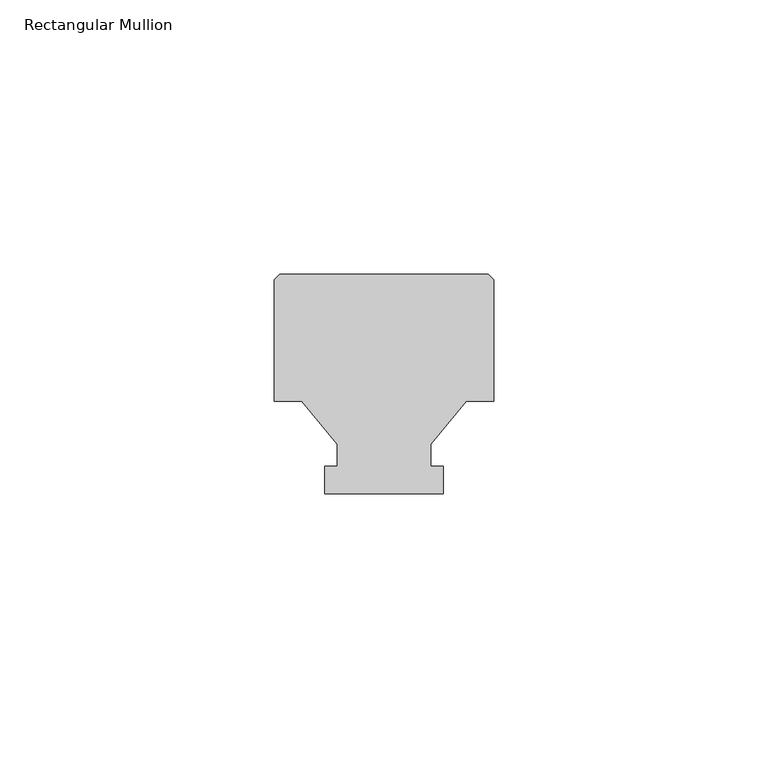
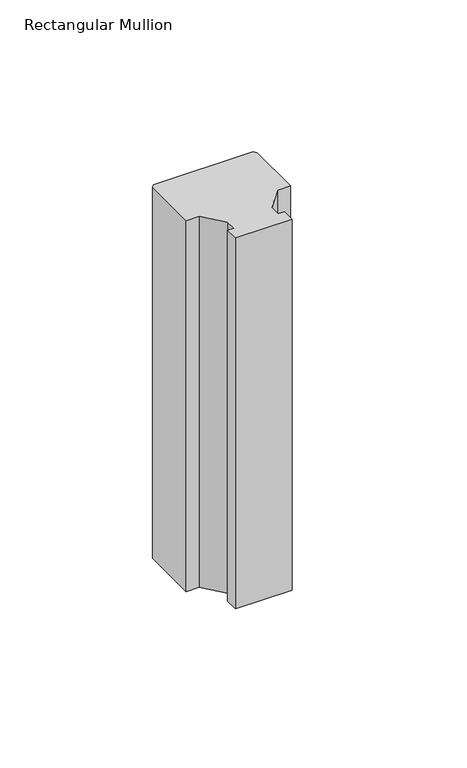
"""IFC4 building model written with IfcOpenShell, lengths in millimetres: member geometry, Rectangular Mullion : Batten_Timber_Modinex_Austratus_Grid_Fin_40x40_AlaskanYellowCedar."""

from ifc_helpers import new_model, si_unit, frame, origin, place, context, project, spatial, polyline, outline, extrude, source, transform, mapped, element, save


def rectangular_mullion_84e0df2e(model_context):
    return source(origin(), model_context, "Body", "SweptSolid", [
        extrude(outline(polyline([(-20.0, 16.8079815), (-20.0, 39.0), (-19.0, 40.0), (19.0, 40.0), (20.0, 39.0), (20.0, 16.8079815), (15.0, 16.8079815), (8.5, 9.0), (8.5, 5.0), (10.812195, 5.0), (10.812195, 0.0), (-10.812195, 0.0), (-10.812195, 5.0), (-8.5, 5.0), (-8.5, 9.0), (-15.0, 16.8079815), (-20.0, 16.8079815)])), frame((0.0, 0.0, -150.0), z_axis=(0.0, 0.0, 1.0), x_axis=(1.0, 0.0, 0.0)), (0.0, 0.0, 1.0), 150.0),
    ])


if __name__ == "__main__":
    model = new_model("IFC4")
    model_context = context("Model", 3, world=origin())
    ifc_project = project(units=[si_unit("LENGTHUNIT", "METRE", prefix="MILLI")], contexts=[model_context])
    site = spatial("IfcSite", under=ifc_project)
    building = spatial("IfcBuilding", under=site)
    placement = place(None, origin())
    rectangular_mullion_shape = rectangular_mullion_84e0df2e(model_context)
    element("IfcMember", 1, ObjectType="Rectangular Mullion : Batten_Timber_Modinex_Austratus_Grid_Fin_40x40_AlaskanYellowCedar", at=placement, inside=building, context=model_context, shape_type="MappedRepresentation", body=[
        mapped(rectangular_mullion_shape, transform((0.0, 0.0, 0.0), x_axis=(1.0, 0.0, 0.0), y_axis=(0.0, 1.0, 0.0), z_axis=(0.0, 0.0, 1.0))),
    ])
    save(model, "model.ifc")
